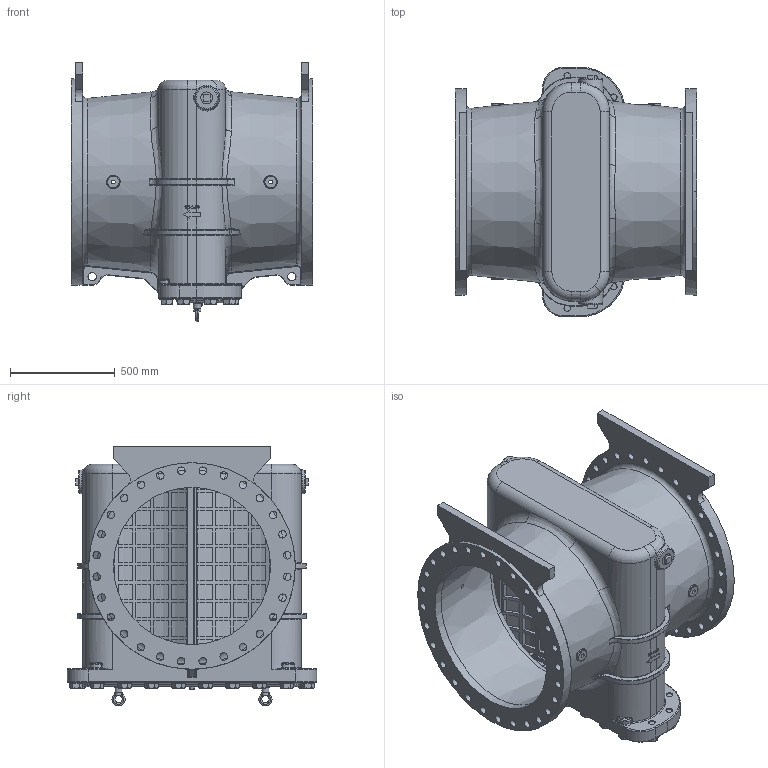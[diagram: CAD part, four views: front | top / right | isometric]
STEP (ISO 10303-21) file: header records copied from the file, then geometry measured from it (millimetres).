
FILE_DESCRIPTION(/* description */ (''),/* implementation_level */ '2;1');
FILE_NAME(/* name */ 'C:\Users\Cédric\OneDrive - CLA-VAL Europe\Bureau\FAB750_150FF.stp',/* time_stamp */ '2023-05-23T07:13:37+02:00',/* author */ ('Cédric'),/* organization */ (''),/* preprocessor_version */ 'ST-DEVELOPER v18.1',/* originating_system */ 'Autodesk Inventor 2022',/* authorisation */ '');
FILE_SCHEMA (('AUTOMOTIVE_DESIGN { 1 0 10303 214 3 1 1 }'));
Products named in the file (1): FAB750_150FF_Simplifier_1
Bounding box: 1150 x 1190 x 1238.5 mm (x, y, z)
Volume: 146443577.7 mm3; surface area: 14082500.4 mm2
Topology: 1 solids, 1 shells, 3004 faces, 7704 edges, 4669 vertices
Faces by surface type: plane 1327, cylinder 673, bspline 405, torus 341, cone 162, sphere 96
Full cylindrical faces by diameter (mm): 1.6 x1, 2.3 x1, 6.5 x1, 6.92 x2, 14 x1, 18.63 x5, 20.955 x1, 31.67 x12, 35.5 x56, 36 x2, 37 x2, 40 x2, 56.66 x4, 66 x20, 750 x2, 985 x1
Entity records: 105826 total; most frequent: CARTESIAN_POINT 34740, ORIENTED_EDGE 15148, DIRECTION 14414, EDGE_CURVE 7574, AXIS2_PLACEMENT_3D 5427, VERTEX_POINT 4670, LINE 3560, VECTOR 3560
